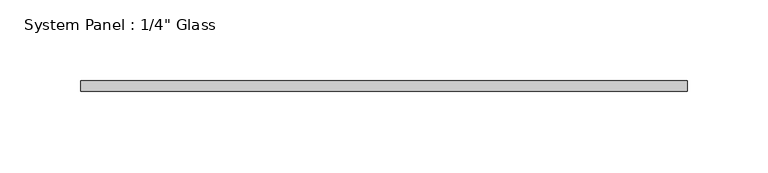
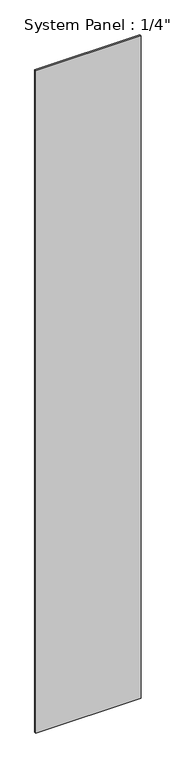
"""IFC4 building model written with IfcOpenShell, lengths in millimetres: plate geometry."""

import ifcopenshell
import ifcopenshell.guid

model = None  # the IFC model being written
_history = None  # IfcOwnerHistory: only IFC2X3 demands one
_inside = {}  # id of a spatial element -> (the spatial element, [elements in it])
_under = {}  # id of a project, library or spatial element -> (it, [spatial elements below it])
_declared = {}  # id of a project -> (the project, [libraries it declares])
_typed = {}  # id of a type object -> (the type object, [elements of that type])
_made_of = {}  # id of a material, layer set ... -> (it, [elements and type objects made of it])


def new_model(schema):
    """Start an empty IFC model of exactly this schema.

    Asked for "IFC4X3", IfcOpenShell would pick the latest addendum, in which some entities
    have other attributes; the version numbers below select the first issue.
    IFC2X3 requires an IfcOwnerHistory on every rooted entity: one is made here for all.
    """
    global model, _history
    if schema == "IFC4X3":
        model = ifcopenshell.file(schema_version=(4, 3, 0, 0))
    else:
        model = ifcopenshell.file(schema=schema)
    _inside.clear()
    _under.clear()
    _declared.clear()
    _typed.clear()
    _made_of.clear()
    _history = None
    if model.schema == "IFC2X3":
        org = make("IfcOrganization", Name="unknown")
        user = make(
            "IfcPersonAndOrganization",
            ThePerson=make("IfcPerson", FamilyName="unknown"),
            TheOrganization=org,
        )
        app = make(
            "IfcApplication",
            ApplicationDeveloper=org,
            Version="unknown",
            ApplicationFullName="unknown",
            ApplicationIdentifier="unknown",
        )
        _history = make(
            "IfcOwnerHistory",
            OwningUser=user,
            OwningApplication=app,
            ChangeAction="ADDED",
            CreationDate=0,
        )
    return model


def make(cls, **values):
    """One entity of the class cls with the attributes given. An attribute that is None is left unset."""
    return model.create_entity(
        cls, **{name: value for name, value in values.items() if value is not None}
    )


def rooted(cls, **values):
    """An entity with a GlobalId (a new one), such as an element, a storey or a relation."""
    return make(cls, GlobalId=ifcopenshell.guid.new(), OwnerHistory=_history, **values)


def si_unit(unit_type, name, prefix=None):
    """IfcSIUnit, for example si_unit("LENGTHUNIT", "METRE", prefix="MILLI")."""
    return make("IfcSIUnit", UnitType=unit_type, Prefix=prefix, Name=name)


def assignment(units):
    """IfcUnitAssignment: the units of a project."""
    return None if units is None else make("IfcUnitAssignment", Units=units)


def point(xyz):
    """IfcCartesianPoint."""
    return None if xyz is None else make("IfcCartesianPoint", Coordinates=xyz)


def direction(xyz):
    """IfcDirection."""
    return None if xyz is None else make("IfcDirection", DirectionRatios=xyz)


def frame(location, z_axis=None, x_axis=None):
    """IfcAxis2Placement3D, a coordinate frame: its origin and axes. An axis left out is left unset."""
    return make(
        "IfcAxis2Placement3D",
        Location=point(location),
        Axis=direction(z_axis),
        RefDirection=direction(x_axis),
    )


def origin():
    """The frame at (0, 0, 0) with its axes left unset."""
    return frame((0.0, 0.0, 0.0))


def origin_with_axes():
    """The frame at (0, 0, 0) with the z axis (0, 0, 1) and the x axis (1, 0, 0) written out."""
    return frame((0.0, 0.0, 0.0), z_axis=(0.0, 0.0, 1.0), x_axis=(1.0, 0.0, 0.0))


def place(relative_to, where):
    """IfcLocalPlacement: puts the frame where relative to a parent placement (None: the world)."""
    return make(
        "IfcLocalPlacement", PlacementRelTo=relative_to, RelativePlacement=where
    )


def context(
    kind, dimensions, precision=None, world=None, true_north=None, identifier=None
):
    """IfcGeometricRepresentationContext, for example the 3D "Model" context."""
    return make(
        "IfcGeometricRepresentationContext",
        ContextIdentifier=identifier,
        ContextType=kind,
        CoordinateSpaceDimension=dimensions,
        Precision=precision,
        WorldCoordinateSystem=world,
        TrueNorth=true_north,
    )


def project(units=None, contexts=None):
    """IfcProject with its units and contexts."""
    return rooted(
        "IfcProject",
        Name="project",
        RepresentationContexts=contexts,
        UnitsInContext=assignment(units),
    )


def spatial(cls, under=None, at=None, **own):
    """A site, building, storey or space (cls), placed at a placement, below another one or the project."""
    s = rooted(cls, ObjectPlacement=at, **own)
    if under is not None:
        _under.setdefault(under.id(), (under, []))[1].append(s)
    return s


def polyline(points):
    """IfcPolyline through the points."""
    return make("IfcPolyline", Points=[point(p) for p in points])


def outline(outer, holes=None, kind="AREA"):
    """IfcArbitraryClosedProfileDef: a profile drawn as a closed curve; with holes, ...WithVoids."""
    if holes is None:
        return make("IfcArbitraryClosedProfileDef", ProfileType=kind, OuterCurve=outer)
    return make(
        "IfcArbitraryProfileDefWithVoids",
        ProfileType=kind,
        OuterCurve=outer,
        InnerCurves=holes,
    )


def extrude(swept, where, along, depth):
    """IfcExtrudedAreaSolid: the profile swept, set in the frame where, extruded along a direction by depth."""
    return make(
        "IfcExtrudedAreaSolid",
        SweptArea=swept,
        Position=where,
        ExtrudedDirection=direction(along),
        Depth=depth,
    )


def shape(context_of_items, identifier, shape_type, items):
    """IfcShapeRepresentation: the items that make up one representation, for example the "Body"."""
    return make(
        "IfcShapeRepresentation",
        ContextOfItems=context_of_items,
        RepresentationIdentifier=identifier,
        RepresentationType=shape_type,
        Items=items,
    )


def source(mapping_origin, context_of_items, identifier, shape_type, items):
    """IfcRepresentationMap: a shape defined once, which mapped items show again and again."""
    return make(
        "IfcRepresentationMap",
        MappingOrigin=mapping_origin,
        MappedRepresentation=shape(context_of_items, identifier, shape_type, items),
    )


def transform(
    local_origin,
    x_axis=None,
    y_axis=None,
    z_axis=None,
    scale=None,
    scale2=None,
    scale3=None,
    uniform=True,
):
    """IfcCartesianTransformationOperator3D, or its non-uniform kind. x_axis, y_axis, z_axis: its Axis1, 2, 3."""
    if uniform:
        return make(
            "IfcCartesianTransformationOperator3D",
            Axis1=direction(x_axis),
            Axis2=direction(y_axis),
            LocalOrigin=point(local_origin),
            Scale=scale,
            Axis3=direction(z_axis),
        )
    return make(
        "IfcCartesianTransformationOperator3DnonUniform",
        Axis1=direction(x_axis),
        Axis2=direction(y_axis),
        LocalOrigin=point(local_origin),
        Scale=scale,
        Axis3=direction(z_axis),
        Scale2=scale2,
        Scale3=scale3,
    )


def mapped(mapping_source, mapping_target):
    """IfcMappedItem: shows the shape of a source again, moved by a transform."""
    return make(
        "IfcMappedItem", MappingSource=mapping_source, MappingTarget=mapping_target
    )


def made_of(thing, what):
    """Note that an element or type object is made of a material, layer set ...; save() writes the relation."""
    if what is not None:
        _made_of.setdefault(what.id(), (what, []))[1].append(thing)
    return thing


def element(
    cls,
    number,
    at=None,
    inside=None,
    cuts=None,
    type_object=None,
    material=None,
    context=None,
    identifier="Body",
    shape_type=None,
    held_by="IfcProductDefinitionShape",
    body=None,
    shapes=None,
    **own,
):
    """One element of the class cls, such as IfcWall. Its Tag is "e" and its number.

    at: its placement. inside: the storey or other place that contains it. cuts: it is an
    opening in that element (IfcRelVoidsElement). A single representation is given by context,
    identifier, shape_type and body (its items); several are given by shapes. held_by: the class
    of the entity that holds the representations. save() writes the other relations.
    """
    e = rooted(cls, Tag="e%d" % number, ObjectPlacement=at, **own)
    if body is not None:
        shapes = [shape(context, identifier, shape_type, body)]
    if shapes is not None:
        e.Representation = make(held_by, Representations=shapes)
    if inside is not None:
        _inside.setdefault(inside.id(), (inside, []))[1].append(e)
    if cuts is not None:
        rooted(
            "IfcRelVoidsElement", RelatingBuildingElement=cuts, RelatedOpeningElement=e
        )
    if type_object is not None:
        _typed.setdefault(type_object.id(), (type_object, []))[1].append(e)
    return made_of(e, material)


def aggregate(whole, parts):
    """IfcRelAggregates: a whole, such as a stair, and the parts it consists of."""
    return rooted("IfcRelAggregates", RelatingObject=whole, RelatedObjects=parts)


def save(model, path):
    """Write the relations noted so far, then the file.

    IfcRelAggregates (storeys below a building ...), IfcRelContainedInSpatialStructure (elements
    in a storey), IfcRelDefinesByType, IfcRelAssociatesMaterial and IfcRelDeclares: one each for
    every whole, place, type object, material and project.
    """
    for whole, parts in _under.values():
        aggregate(whole, parts)
    for where, things in _inside.values():
        rooted(
            "IfcRelContainedInSpatialStructure",
            RelatedElements=things,
            RelatingStructure=where,
        )
    for kind, things in _typed.values():
        rooted("IfcRelDefinesByType", RelatedObjects=things, RelatingType=kind)
    for what, things in _made_of.values():
        rooted("IfcRelAssociatesMaterial", RelatedObjects=things, RelatingMaterial=what)
    for by, libraries in _declared.values():
        rooted("IfcRelDeclares", RelatingContext=by, RelatedDefinitions=libraries)
    model.write(path)


def plate_53ca565f(model_context):
    return source(origin(), model_context, "Body", "SweptSolid", [
        extrude(outline(polyline([(187.3277513, -3.175), (-187.3277513, -3.175), (-187.3277513, 3.175), (187.3277513, 3.175), (187.3277513, -3.175)])), origin_with_axes(), (0.0, 0.0, 1.0), 2489.2),
    ])


if __name__ == "__main__":
    model = new_model("IFC4")
    model_context = context("Model", 3, world=origin())
    ifc_project = project(units=[si_unit("LENGTHUNIT", "METRE", prefix="MILLI")], contexts=[model_context])
    site = spatial("IfcSite", under=ifc_project)
    building = spatial("IfcBuilding", under=site)
    placement = place(None, origin())
    plate_shape = plate_53ca565f(model_context)
    element("IfcPlate", 1, ObjectType="System Panel : 1/4\" Glass", at=placement, inside=building, context=model_context, shape_type="MappedRepresentation", body=[
        mapped(plate_shape, transform((0.0, 0.0, 0.0), x_axis=(1.0, 0.0, 0.0), y_axis=(0.0, 1.0, 0.0), z_axis=(0.0, 0.0, 1.0))),
    ])
    save(model, "model.ifc")
